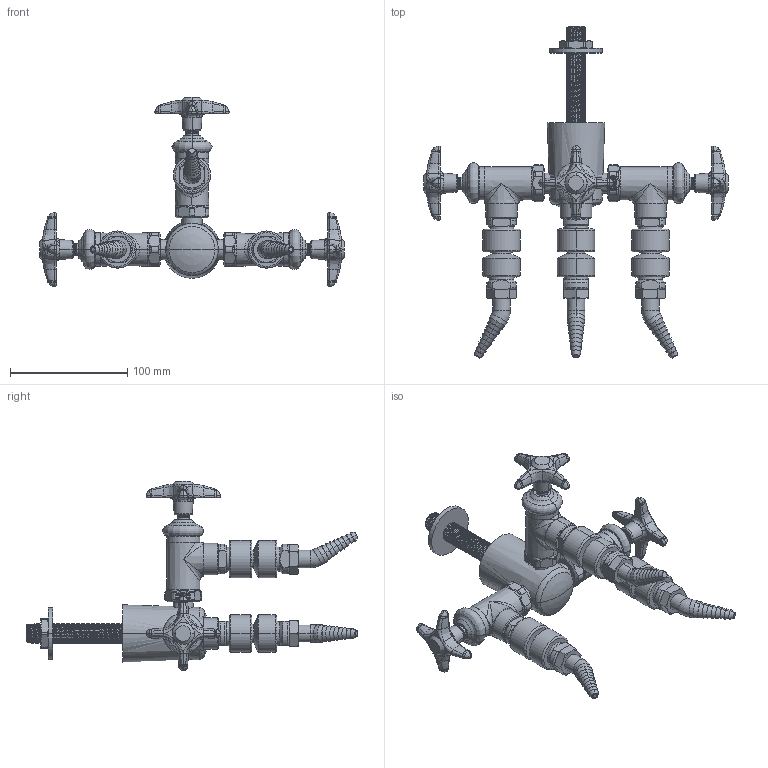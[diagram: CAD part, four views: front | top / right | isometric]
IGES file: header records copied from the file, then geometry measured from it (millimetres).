
Start section:  PTC IGES file: LWV2-C52-30.igs
Global section: file name: LWV2-C52-30.igs; native system: Creo Parametric by PTC Inc.; preprocessor: 2014500; author: usch_engrender; organization: Unknown; date: 20151124.122256; units: inch
Bounding box: 259.77 x 283.24 x 161.59 mm (x, y, z)
Volume: 445097.8 mm3; surface area: 117951 mm2
Topology: 1 solids, 8 shells, 1958 faces, 4555 edges, 2697 vertices
Faces by surface type: bspline 1025, revolution 933
